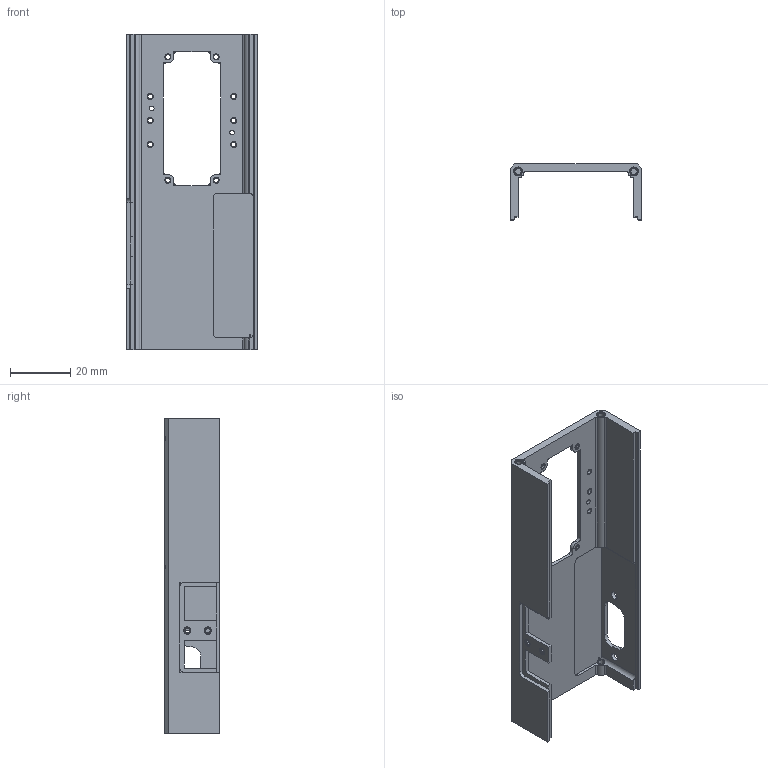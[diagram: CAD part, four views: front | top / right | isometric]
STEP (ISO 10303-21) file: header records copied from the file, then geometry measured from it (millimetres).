
FILE_DESCRIPTION(/* description */ ('VariCAD 2010-3.03 AP-214'),/* implementation_level */ '2;1');
FILE_NAME(/* name */ '0353-11-05',/* time_stamp */ '2011-05-19T14:26:31-06:00',/* author */ (''),/* organization */ (''),/* preprocessor_version */ 'ST-DEVELOPER v12',/* originating_system */ 'VariCAD 2010-3.03; kernel version (20100102)',/* authorisation */ '');
FILE_SCHEMA (('AUTOMOTIVE_DESIGN'));
Length unit declared in the file: millimetre
Products named in the file (1): Part
Bounding box: 43.5 x 18.5 x 104.77 mm (x, y, z)
Volume: 14826.4 mm3; surface area: 15479.5 mm2
Topology: 21 solids, 21 shells, 380 faces, 913 edges, 564 vertices
Faces by surface type: cylinder 190, plane 126, cone 64
Entity records: 11602 total; most frequent: CARTESIAN_POINT 2103, DIRECTION 2095, ORIENTED_EDGE 1826, EDGE_CURVE 913, AXIS2_PLACEMENT_3D 808, VERTEX_POINT 564, LINE 479, VECTOR 479
